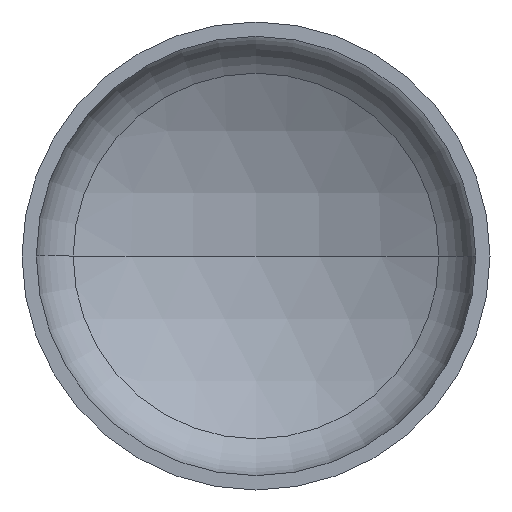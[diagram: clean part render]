
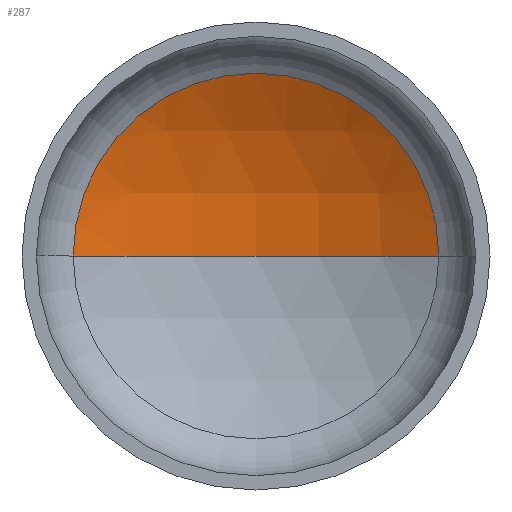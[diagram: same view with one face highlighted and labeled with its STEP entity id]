
A CAD part, front view. The second image highlights one B-rep face of the part: STEP entity #287.
In plain terms, the highlighted spherical face has radius 2240 mm.
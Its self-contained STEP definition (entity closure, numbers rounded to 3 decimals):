
#6 = ORIENTED_EDGE ( 'NONE', *, *, #346, .T. ) ;
#16 = EDGE_LOOP ( 'NONE', ( #60, #6, #27 ) ) ;
#25 = AXIS2_PLACEMENT_3D ( 'NONE', #396, #266, #355 ) ;
#27 = ORIENTED_EDGE ( 'NONE', *, *, #345, .T. ) ;
#28 = AXIS2_PLACEMENT_3D ( 'NONE', #327, #192, #194 ) ;
#30 = AXIS2_PLACEMENT_3D ( 'NONE', #182, #183, #361 ) ;
#39 = CIRCLE ( 'NONE', #28, 2240. ) ;
#42 = AXIS2_PLACEMENT_3D ( 'NONE', #252, #261, #190 ) ;
#43 = CIRCLE ( 'NONE', #25, 2240. ) ;
#60 = ORIENTED_EDGE ( 'NONE', *, *, #349, .F. ) ;
#123 = VERTEX_POINT ( 'NONE', #235 ) ;
#134 = VERTEX_POINT ( 'NONE', #209 ) ;
#142 = CIRCLE ( 'NONE', #30, 1094.011 ) ;
#150 = SPHERICAL_SURFACE ( 'NONE', #42, 2240. ) ;
#182 = CARTESIAN_POINT ( 'NONE',  ( 0., 475.227, 0. ) ) ;
#183 = DIRECTION ( 'NONE',  ( 0., -1., 0. ) ) ;
#190 = DIRECTION ( 'NONE',  ( -1., 0., 0. ) ) ;
#192 = DIRECTION ( 'NONE',  ( 0., 0., -1. ) ) ;
#194 = DIRECTION ( 'NONE',  ( -1., 0., 0. ) ) ;
#197 = VERTEX_POINT ( 'NONE', #216 ) ;
#209 = CARTESIAN_POINT ( 'NONE',  ( 0., 760.556, 0. ) ) ;
#216 = CARTESIAN_POINT ( 'NONE',  ( 1094.011, 475.227, 0. ) ) ;
#235 = CARTESIAN_POINT ( 'NONE',  ( -1094.011, 475.227, 0. ) ) ;
#252 = CARTESIAN_POINT ( 'NONE',  ( 0., -1479.444, 0. ) ) ;
#261 = DIRECTION ( 'NONE',  ( 0., 0., -1. ) ) ;
#266 = DIRECTION ( 'NONE',  ( 0., 0., 1. ) ) ;
#287 = ADVANCED_FACE ( 'NONE', ( #394 ), #150, .F. ) ;
#327 = CARTESIAN_POINT ( 'NONE',  ( 0., -1479.444, 0. ) ) ;
#345 = EDGE_CURVE ( 'NONE', #197, #123, #142, .T. ) ;
#346 = EDGE_CURVE ( 'NONE', #134, #197, #39, .T. ) ;
#349 = EDGE_CURVE ( 'NONE', #134, #123, #43, .T. ) ;
#355 = DIRECTION ( 'NONE',  ( 1., 0., 0. ) ) ;
#361 = DIRECTION ( 'NONE',  ( 1., 0., 0. ) ) ;
#394 = FACE_OUTER_BOUND ( 'NONE', #16, .T. ) ;
#396 = CARTESIAN_POINT ( 'NONE',  ( 0., -1479.444, 0. ) ) ;
